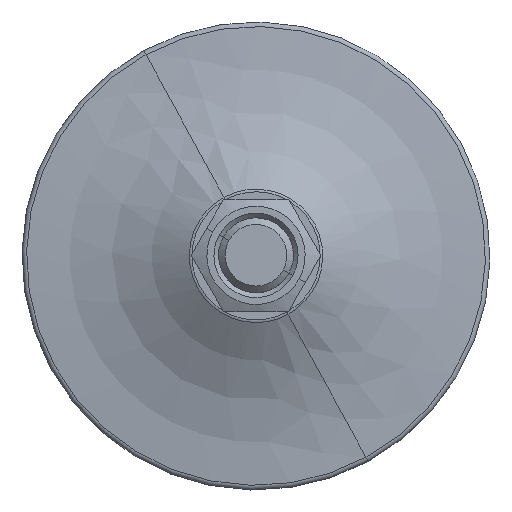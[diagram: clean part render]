
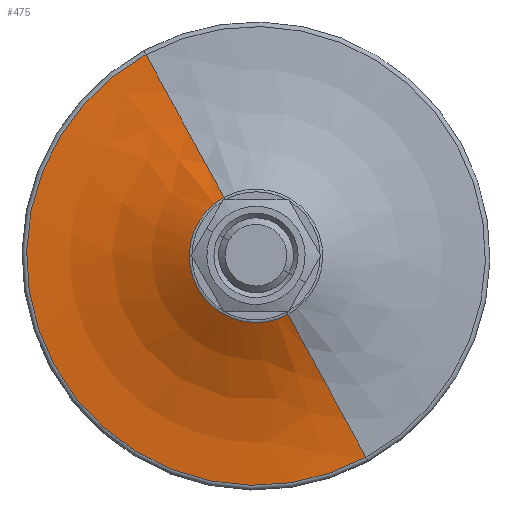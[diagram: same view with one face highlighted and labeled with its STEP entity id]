
A CAD part, top view. The second image highlights one B-rep face of the part: STEP entity #475.
In plain terms, the highlighted face is a revolution surface.
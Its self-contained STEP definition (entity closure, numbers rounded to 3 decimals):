
#61=CARTESIAN_POINT('Vertex',(23.499,-43.015,-10.992)) ;
#77=CARTESIAN_POINT('Vertex',(-23.499,43.015,-10.992)) ;
#102=CARTESIAN_POINT('Axis2P3D Location',(0.,0.,-10.992)) ;
#429=CARTESIAN_POINT('Control Point',(-6.712,12.286,0.)) ;
#430=CARTESIAN_POINT('Control Point',(-10.509,19.236,-5.338)) ;
#431=CARTESIAN_POINT('Control Point',(-14.813,27.114,-9.111)) ;
#432=CARTESIAN_POINT('Control Point',(-19.393,35.498,-11.)) ;
#433=CARTESIAN_POINT('Control Point',(-23.971,43.879,-11.)) ;
#434=CARTESIAN_POINT('Axis1P Location',(0.,0.,53.409)) ;
#442=CARTESIAN_POINT('Vertex',(6.832,-12.506,-0.168)) ;
#444=CARTESIAN_POINT('Vertex',(-6.832,12.506,-0.168)) ;
#447=CARTESIAN_POINT('Axis2P3D Location',(23.971,-43.879,53.409)) ;
#452=CARTESIAN_POINT('Axis2P3D Location',(-23.971,43.879,53.409)) ;
#464=CARTESIAN_POINT('Axis2P3D Location',(0.,0.,-0.168)) ;
#103=DIRECTION('Axis2P3D Direction',(0.,-0.,1.)) ;
#435=DIRECTION('Axis1P Direction',(-0.,-0.,-1.)) ;
#448=DIRECTION('Axis2P3D Direction',(-0.878,-0.479,0.)) ;
#453=DIRECTION('Axis2P3D Direction',(0.878,0.479,-0.)) ;
#465=DIRECTION('Axis2P3D Direction',(0.,0.,1.)) ;
#104=AXIS2_PLACEMENT_3D('Circle Axis2P3D',#102,#103,$) ;
#449=AXIS2_PLACEMENT_3D('Circle Axis2P3D',#447,#448,$) ;
#454=AXIS2_PLACEMENT_3D('Circle Axis2P3D',#452,#453,$) ;
#466=AXIS2_PLACEMENT_3D('Circle Axis2P3D',#464,#465,$) ;
#470=ORIENTED_EDGE('',*,*,#468,.F.) ;
#471=ORIENTED_EDGE('',*,*,#456,.F.) ;
#472=ORIENTED_EDGE('',*,*,#106,.T.) ;
#473=ORIENTED_EDGE('',*,*,#451,.T.) ;
#475=ADVANCED_FACE('PartBody',(#474),#437,.T.) ;
#436=AXIS1_PLACEMENT('Revolution Surface Axis1P',#434,#435) ;
#428=B_SPLINE_CURVE_WITH_KNOTS('',4,(#429,#430,#431,#432,#433),.UNSPECIFIED.,.F.,.U.,(5,5),(-139.374,-101.174),.UNSPECIFIED.) ;
#105=CIRCLE('generated circle',#104,49.015) ;
#450=CIRCLE('generated circle',#449,64.409) ;
#455=CIRCLE('generated circle',#454,64.409) ;
#467=CIRCLE('generated circle',#466,14.251) ;
#106=EDGE_CURVE('',#78,#62,#105,.T.) ;
#451=EDGE_CURVE('',#62,#443,#450,.F.) ;
#456=EDGE_CURVE('',#78,#445,#455,.F.) ;
#468=EDGE_CURVE('',#445,#443,#467,.T.) ;
#469=EDGE_LOOP('',(#470,#471,#472,#473)) ;
#474=FACE_OUTER_BOUND('',#469,.T.) ;
#437=SURFACE_OF_REVOLUTION('homeo Torus',#428,#436) ;
#62=VERTEX_POINT('',#61) ;
#78=VERTEX_POINT('',#77) ;
#443=VERTEX_POINT('',#442) ;
#445=VERTEX_POINT('',#444) ;
